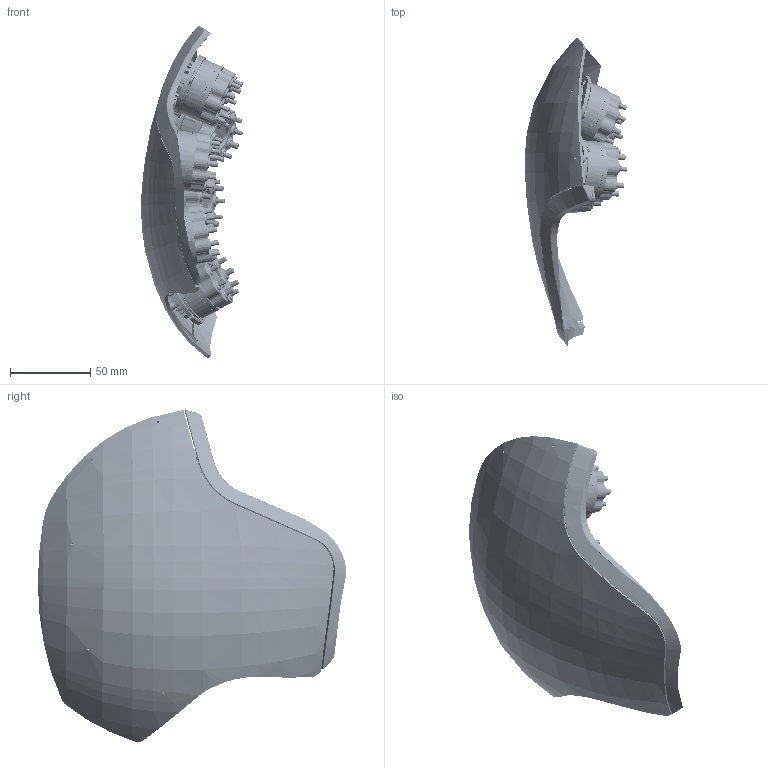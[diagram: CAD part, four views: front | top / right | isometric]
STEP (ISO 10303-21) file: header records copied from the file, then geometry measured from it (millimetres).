
FILE_DESCRIPTION (( 'STEP AP214' ), '1' );
FILE_NAME ('Kernel_Flow2_Simplified_RightPlate_wModules.STEP', '2024-10-04T13:04:40', ( '' ), ( '' ), 'SwSTEP 2.0', 'SolidWorks 2023', '' );
FILE_SCHEMA (( 'AUTOMOTIVE_DESIGN' ));
Length unit declared in the file: millimetre
Products named in the file (9): Kernel Generic Module Flow2.STEP_M18; Kernel_Flow2_Simplified_Right_Side_Outer_Cover_Rev.3; Kernel_Flow2_Simplified_Right_Side_Plate_Rev2; Kernel Generic Module Flow2.STEP_M24; Kernel Generic Module Flow2.STEP_M8; Kernel Generic Module Flow2.STEP_M6; Kernel Generic Module Flow2.STEP_M26; Kernel Generic Module Flow2.STEP_M14; Kernel_Flow2_Simplified_RightPlate_wModules
Assembly tree (8 placements, depth 2):
  Kernel_Flow2_Simplified_RightPlate_wModules
    Kernel_Flow2_Simplified_Right_Side_Outer_Cover_Rev.3
    Kernel_Flow2_Simplified_Right_Side_Plate_Rev2
    Kernel Generic Module Flow2.STEP_M6
    Kernel Generic Module Flow2.STEP_M14
    Kernel Generic Module Flow2.STEP_M24
    Kernel Generic Module Flow2.STEP_M26
    Kernel Generic Module Flow2.STEP_M18
    Kernel Generic Module Flow2.STEP_M8
Bounding box: 63.68 x 192.4 x 207.16 mm (x, y, z)
Volume: 65529.7 mm3; surface area: 164222 mm2
Topology: 2 solids, 116 shells, 5770 faces, 14453 edges, 9002 vertices
Faces by surface type: cylinder 1943, plane 1340, torus 966, cone 863, bspline 383, sphere 275
Entity records: 246499 total; most frequent: CARTESIAN_POINT 108778, DIRECTION 29982, ORIENTED_EDGE 28484, EDGE_CURVE 14263, AXIS2_PLACEMENT_3D 12796, VERTEX_POINT 8952, CIRCLE 7409, EDGE_LOOP 6109
